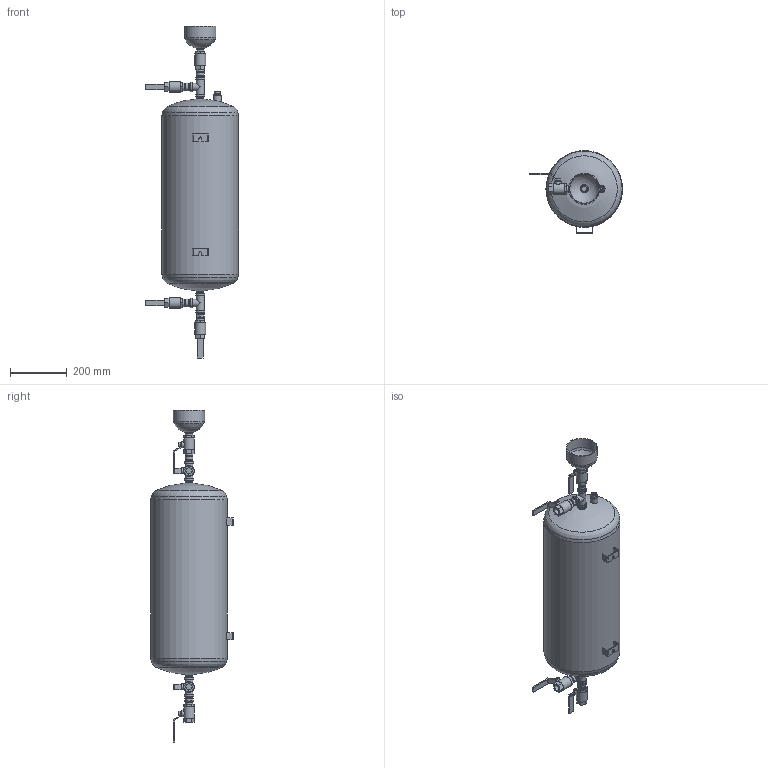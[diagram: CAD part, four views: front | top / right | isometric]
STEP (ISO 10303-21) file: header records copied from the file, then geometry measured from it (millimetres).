
FILE_DESCRIPTION(/* description */ (''),/* implementation_level */ '2;1');
FILE_NAME(/* name */ '\\DATASERVER\data\Flamco\3D-Modellen\Inventor\Dosing Pot\2021\2021 Dosing Pot 35 L\2021_Dosing Pot 35L.stp',/* time_stamp */ '2021-02-17T11:11:17+01:00',/* author */ ('kasius'),/* organization */ (''),/* preprocessor_version */ 'ST-DEVELOPER v17',/* originating_system */ 'Autodesk Inventor 2018',/* authorisation */ '');
FILE_SCHEMA (('AUTOMOTIVE_DESIGN { 1 0 10303 214 3 1 1 }'));
Length unit declared in the file: millimetre
Products named in the file (1): 2021_Dosing Pot 35L
Bounding box: 328.3 x 291.21 x 1171.27 mm (x, y, z)
Volume: 37136343.8 mm3; surface area: 792237.5 mm2
Topology: 3 solids, 3 shells, 322 faces, 816 edges, 557 vertices
Faces by surface type: plane 229, cylinder 70, cone 14, torus 5, sphere 4
Full cylindrical faces by diameter (mm): 9.8 x1, 15.875 x8, 19 x1, 19.3 x1, 21.514 x4, 21.749 x3, 23.8 x1, 25.8 x3, 26 x3, 26.5 x1, 26.753 x2, 26.754 x6, 27 x3, 27.2 x4, 32.64 x6, 38.495 x4, 106 x1, 110 x1, 270 x1
Entity records: 10130 total; most frequent: CARTESIAN_POINT 1898, DIRECTION 1764, ORIENTED_EDGE 1632, EDGE_CURVE 816, AXIS2_PLACEMENT_3D 635, VERTEX_POINT 557, LINE 494, VECTOR 494
